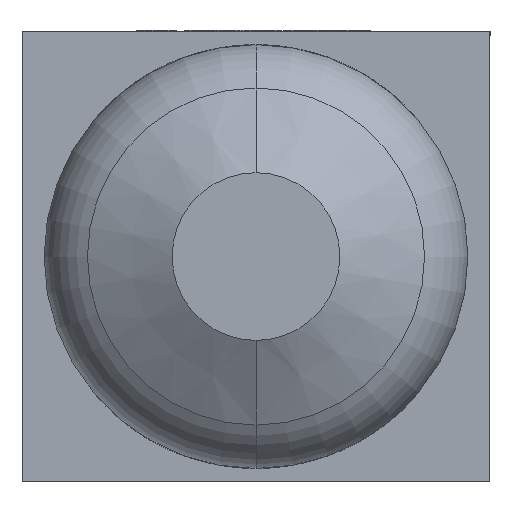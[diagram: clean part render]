
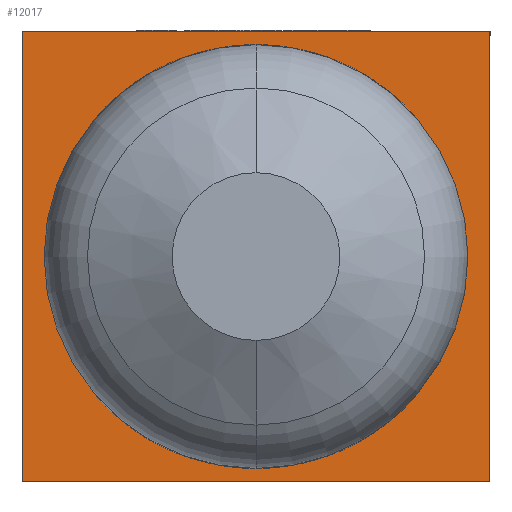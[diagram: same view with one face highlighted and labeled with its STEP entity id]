
A CAD part, front view. The second image highlights one B-rep face of the part: STEP entity #12017.
In plain terms, the highlighted planar face has unit normal (0, -1, 0).
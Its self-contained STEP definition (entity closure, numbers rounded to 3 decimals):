
#1349 = CARTESIAN_POINT ( 'NONE',  ( -26.5, -25.5, 25.5 ) ) ;
#1386 = VERTEX_POINT ( 'NONE', #5370 ) ;
#1410 = CARTESIAN_POINT ( 'NONE',  ( 26.5, -25.5, 25.5 ) ) ;
#1633 = VECTOR ( 'NONE', #9774, 1000. ) ;
#1799 = CARTESIAN_POINT ( 'NONE',  ( -26.5, -25.5, 25.5 ) ) ;
#2122 = CARTESIAN_POINT ( 'NONE',  ( 26.5, -25.5, 25.5 ) ) ;
#2459 = CARTESIAN_POINT ( 'NONE',  ( -26.5, -25.5, 25.5 ) ) ;
#2874 = EDGE_LOOP ( 'NONE', ( #4809, #13115, #10192, #7550 ) ) ;
#3214 = DIRECTION ( 'NONE',  ( 0., 1., 0. ) ) ;
#3263 = EDGE_CURVE ( 'NONE', #10706, #3327, #4949, .T. ) ;
#3327 = VERTEX_POINT ( 'NONE', #6098 ) ;
#3615 = DIRECTION ( 'NONE',  ( 1., 0., 0. ) ) ;
#4626 = LINE ( 'NONE', #1349, #8043 ) ;
#4809 = ORIENTED_EDGE ( 'NONE', *, *, #5574, .T. ) ;
#4949 = LINE ( 'NONE', #2122, #1633 ) ;
#5072 = VECTOR ( 'NONE', #3615, 1000. ) ;
#5370 = CARTESIAN_POINT ( 'NONE',  ( -26.5, -25.5, -25.5 ) ) ;
#5574 = EDGE_CURVE ( 'NONE', #1386, #3327, #12213, .T. ) ;
#5659 = VERTEX_POINT ( 'NONE', #2459 ) ;
#6098 = CARTESIAN_POINT ( 'NONE',  ( 26.5, -25.5, -25.5 ) ) ;
#7323 = VECTOR ( 'NONE', #12122, 1000. ) ;
#7550 = ORIENTED_EDGE ( 'NONE', *, *, #14212, .T. ) ;
#7811 = EDGE_CURVE ( 'NONE', #5659, #10706, #9094, .T. ) ;
#8043 = VECTOR ( 'NONE', #13192, 1000. ) ;
#8086 = DIRECTION ( 'NONE',  ( -1., 0., 0. ) ) ;
#9094 = LINE ( 'NONE', #10700, #7323 ) ;
#9774 = DIRECTION ( 'NONE',  ( 0., 0., -1. ) ) ;
#10192 = ORIENTED_EDGE ( 'NONE', *, *, #7811, .F. ) ;
#10700 = CARTESIAN_POINT ( 'NONE',  ( -26.5, -25.5, 25.5 ) ) ;
#10706 = VERTEX_POINT ( 'NONE', #1410 ) ;
#12017 = ADVANCED_FACE ( 'NONE', ( #12945 ), #13660, .F. ) ;
#12122 = DIRECTION ( 'NONE',  ( 1., 0., 0. ) ) ;
#12213 = LINE ( 'NONE', #14071, #5072 ) ;
#12945 = FACE_OUTER_BOUND ( 'NONE', #2874, .T. ) ;
#13115 = ORIENTED_EDGE ( 'NONE', *, *, #3263, .F. ) ;
#13192 = DIRECTION ( 'NONE',  ( 0., 0., -1. ) ) ;
#13418 = AXIS2_PLACEMENT_3D ( 'NONE', #1799, #3214, #8086 ) ;
#13660 = PLANE ( 'NONE',  #13418 ) ;
#14071 = CARTESIAN_POINT ( 'NONE',  ( -26.5, -25.5, -25.5 ) ) ;
#14212 = EDGE_CURVE ( 'NONE', #5659, #1386, #4626, .T. ) ;
